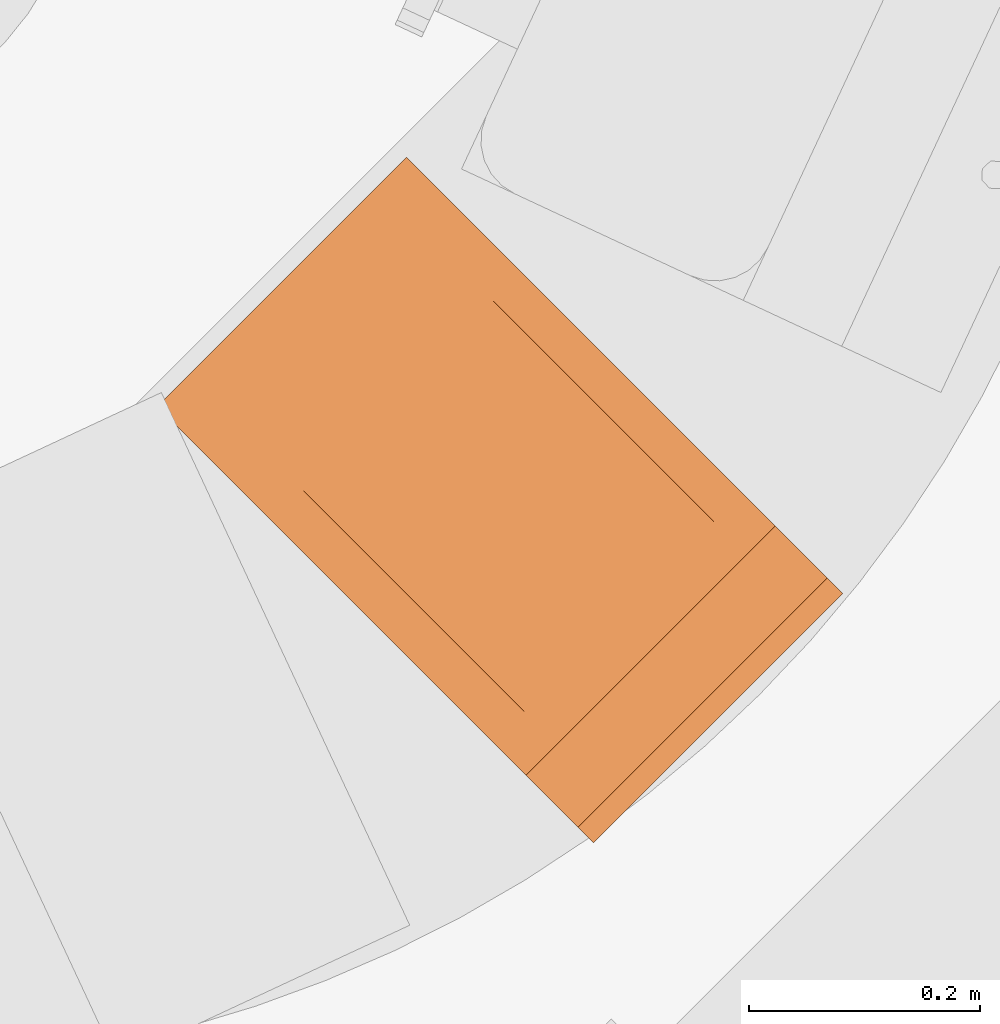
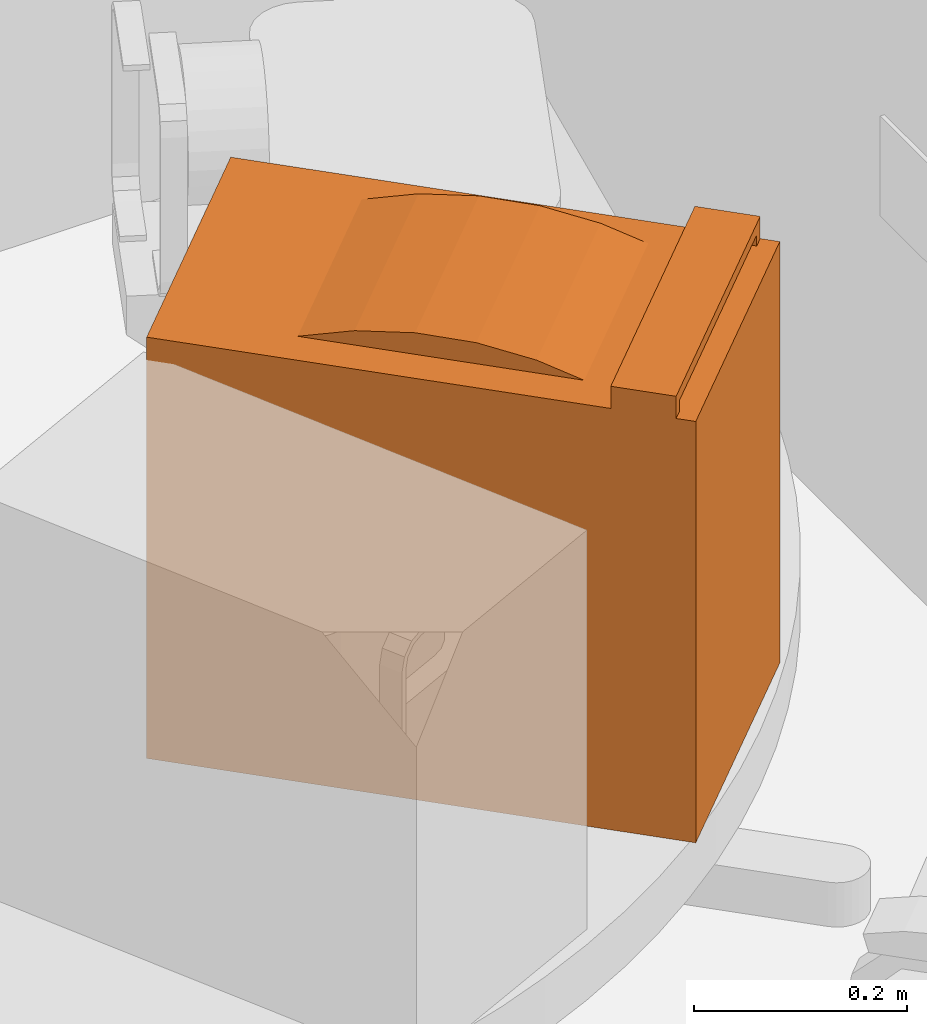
# One storey, part 12 of 12: 1 proxy.
"""IFC2X3 building model written with IfcOpenShell, lengths in feet."""

from ifc_helpers import new_model, entity, si_unit, converted_unit, derived_unit, direction, frame, origin, place, context, subcontext, project, spatial, faceted_brep, source, transform, mapped, material, type_object, type_shapes, element, save


model = new_model("IFC2X3")

# Units and contexts
model_context = context("Model", 3, precision=0.0001, world=origin(), true_north=direction((6.12303176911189e-17, 1.0)))
body_context = subcontext(model_context, "Body", "Model", "MODEL_VIEW")
ifc_project = project(units=[converted_unit("LENGTHUNIT", "FOOT", entity("IfcRatioMeasure", 0.3048), si_unit("LENGTHUNIT", "METRE"), dimensions=[1, 0, 0, 0, 0, 0, 0]), converted_unit("AREAUNIT", "SQUARE FOOT", entity("IfcRatioMeasure", 0.09290304), si_unit("AREAUNIT", "SQUARE_METRE"), dimensions=[2, 0, 0, 0, 0, 0, 0]), converted_unit("VOLUMEUNIT", "CUBIC FOOT", entity("IfcRatioMeasure", 0.028316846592), si_unit("VOLUMEUNIT", "CUBIC_METRE"), dimensions=[3, 0, 0, 0, 0, 0, 0]), converted_unit("PLANEANGLEUNIT", "DEGREE", entity("IfcRatioMeasure", 0.0174532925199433), si_unit("PLANEANGLEUNIT", "RADIAN"), dimensions=[0, 0, 0, 0, 0, 0, 0]), si_unit("MASSUNIT", "GRAM", prefix="KILO"), derived_unit("MASSDENSITYUNIT", [(si_unit("MASSUNIT", "GRAM", prefix="KILO"), 1), (si_unit("LENGTHUNIT", "METRE"), -3)]), si_unit("TIMEUNIT", "SECOND"), si_unit("FREQUENCYUNIT", "HERTZ"), si_unit("THERMODYNAMICTEMPERATUREUNIT", "DEGREE_CELSIUS"), derived_unit("THERMALTRANSMITTANCEUNIT", [(si_unit("MASSUNIT", "GRAM", prefix="KILO"), 1), (si_unit("THERMODYNAMICTEMPERATUREUNIT", "KELVIN"), -1), (si_unit("TIMEUNIT", "SECOND"), -3)]), derived_unit("VOLUMETRICFLOWRATEUNIT", [(si_unit("LENGTHUNIT", "METRE"), 3), (si_unit("TIMEUNIT", "SECOND"), -1)]), si_unit("ELECTRICCURRENTUNIT", "AMPERE"), si_unit("ELECTRICVOLTAGEUNIT", "VOLT"), si_unit("POWERUNIT", "WATT"), si_unit("FORCEUNIT", "NEWTON"), si_unit("ILLUMINANCEUNIT", "LUX"), si_unit("LUMINOUSFLUXUNIT", "LUMEN"), si_unit("LUMINOUSINTENSITYUNIT", "CANDELA"), derived_unit("USERDEFINED", [(si_unit("MASSUNIT", "GRAM", prefix="KILO"), -1), (si_unit("LENGTHUNIT", "METRE"), -2), (si_unit("TIMEUNIT", "SECOND"), 3), (si_unit("LUMINOUSFLUXUNIT", "LUMEN"), 1)]), derived_unit("LINEARVELOCITYUNIT", [(si_unit("LENGTHUNIT", "METRE"), 1), (si_unit("TIMEUNIT", "SECOND"), -1)]), si_unit("PRESSUREUNIT", "PASCAL"), derived_unit("USERDEFINED", [(si_unit("LENGTHUNIT", "METRE"), -2), (si_unit("MASSUNIT", "GRAM", prefix="KILO"), 1), (si_unit("TIMEUNIT", "SECOND"), -2)])], contexts=[model_context])

# Site, building, storey, space
site_placement = place(None, origin())
site = spatial("IfcSite", under=ifc_project, at=site_placement, Name="Default", CompositionType="ELEMENT")
building_placement = place(site_placement, origin())
building = spatial("IfcBuilding", under=site, at=building_placement, Name="EYE CLINIC:  OPTHALMOLOGY AND OPTOMETRY SERVICES (Ch. 233)", CompositionType="ELEMENT")
storey_placement = place(building_placement, origin())
storey = spatial("IfcBuildingStorey", under=building, at=storey_placement, Name="DATUM", CompositionType="ELEMENT", Elevation=0.0)
space_placement = place(storey_placement, origin())
space = spatial("IfcSpace", under=storey, at=space_placement, Name="(OPPT2)", CompositionType="ELEMENT", InteriorOrExteriorSpace="INTERNAL")

# Proxy
ifc_material = material(Name="EquipSpace")
building_element_proxy_type = type_object("IfcBuildingElementProxyType", Name="M5500 - Autorefractor, Ophthalmic", PredefinedType="NOTDEFINED", material=ifc_material)
shared_shape = source(origin(), body_context, "Body", "Brep", [
    faceted_brep([(0.500000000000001, 0.6875, 0.666666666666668), (0.500000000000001, 0.8125, 0.666666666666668), (0.500000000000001, 0.812500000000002, 1.66666666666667), (0.500000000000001, 0.604166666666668, 1.66666666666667), (0.500000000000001, 0.604166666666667, 0.666666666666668), (0.500000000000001, 0.541666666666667, 0.666666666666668), (0.500000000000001, 0.541666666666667, 0.500000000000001), (0.500000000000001, 0.6875, 0.500000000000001), (-0.499999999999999, 0.6875, 0.666666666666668), (-0.499999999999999, 0.6875, 0.500000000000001), (-0.499999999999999, 0.541666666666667, 0.500000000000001), (-0.499999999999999, 0.541666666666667, 0.666666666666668), (-0.499999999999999, 0.604166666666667, 0.666666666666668), (-0.499999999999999, 0.604166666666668, 1.66666666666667), (-0.499999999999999, 0.812500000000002, 1.66666666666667), (-0.499999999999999, 0.8125, 0.666666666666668), (-0.458333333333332, 0.812500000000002, 1.625), (-0.458333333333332, 0.8125, 0.708333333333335), (0.458333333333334, 0.8125, 0.708333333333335), (0.458333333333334, 0.812500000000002, 1.625), (-0.458333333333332, 0.604166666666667, 0.708333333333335), (-0.458333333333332, 0.604166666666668, 1.625), (0.458333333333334, 0.604166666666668, 1.625), (0.458333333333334, 0.604166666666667, 0.708333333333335)], [[[0, 1, 2, 3, 4, 5, 6, 7]], [[8, 9, 10, 11, 12, 13, 14, 15]], [[1, 0, 8, 15]], [[2, 1, 15, 14], [16, 17, 18, 19]], [[3, 2, 14, 13]], [[4, 3, 13, 12], [20, 21, 22, 23]], [[5, 4, 12, 11]], [[6, 5, 11, 10]], [[7, 6, 10, 9]], [[0, 7, 9, 8]], [[16, 21, 20, 17]], [[17, 20, 23, 18]], [[18, 23, 22, 19]], [[21, 16, 19, 22]]]),
    faceted_brep([(0.0312500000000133, -0.699703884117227, 0.526671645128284), (0.0156250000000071, -0.672640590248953, 0.526671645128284), (0.0156250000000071, -0.672640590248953, 0.568338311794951), (0.019531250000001, -0.679406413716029, 0.56833831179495), (0.023437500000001, -0.686172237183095, 0.56833831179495), (0.027343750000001, -0.692938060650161, 0.56833831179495), (0.0312500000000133, -0.699703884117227, 0.568338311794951), (-0.0156250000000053, -0.672640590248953, 0.526671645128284), (-0.0156250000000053, -0.672640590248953, 0.568338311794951), (-0.00781249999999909, -0.672640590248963, 0.56833831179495), (0.0, -0.672640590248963, 0.56833831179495), (0.00781250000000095, -0.672640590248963, 0.56833831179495), (-0.0312500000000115, -0.699703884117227, 0.526671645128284), (-0.0312500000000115, -0.699703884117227, 0.568338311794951), (-0.0273437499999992, -0.692938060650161, 0.56833831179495), (-0.0234374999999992, -0.686172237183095, 0.56833831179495), (-0.0195312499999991, -0.679406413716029, 0.56833831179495), (-0.0156250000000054, -0.726767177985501, 0.526671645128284), (-0.0156250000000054, -0.726767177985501, 0.568338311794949), (-0.0195312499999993, -0.720001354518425, 0.56833831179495), (-0.0234374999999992, -0.713235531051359, 0.56833831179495), (-0.0273437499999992, -0.706469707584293, 0.56833831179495), (0.0156250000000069, -0.726767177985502, 0.526671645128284), (0.0156250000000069, -0.726767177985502, 0.568338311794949), (0.00781250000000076, -0.726767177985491, 0.56833831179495), (0.0, -0.726767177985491, 0.56833831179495), (-0.00781249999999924, -0.726767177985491, 0.56833831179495), (0.0273437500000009, -0.706469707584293, 0.56833831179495), (0.0234375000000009, -0.713235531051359, 0.56833831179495), (0.0195312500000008, -0.720001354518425, 0.56833831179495), (0.047768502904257, -0.679917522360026, 0.636240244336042), (0.0490705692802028, -0.683060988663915, 0.636240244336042), (0.0518663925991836, -0.689810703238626, 0.636240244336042), (0.0436706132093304, -0.670024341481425, 0.636240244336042), (0.0395727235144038, -0.660131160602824, 0.636240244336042), (0.0197863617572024, -0.651935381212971, 0.636240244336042), (-0.0197863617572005, -0.651935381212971, 0.636240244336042), (0.0559642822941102, -0.699703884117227, 0.636240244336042), (0.0296795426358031, -0.656033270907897, 0.636240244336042), (-0.0518663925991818, -0.689810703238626, 0.636240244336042), (-0.0477685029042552, -0.679917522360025, 0.636240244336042), (-0.00989318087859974, -0.647837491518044, 0.636240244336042), (0.0, -0.643739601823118, 0.636240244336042), (-0.0395727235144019, -0.660131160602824, 0.636240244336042), (-0.0436706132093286, -0.670024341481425, 0.636240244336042), (0.0098931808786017, -0.647837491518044, 0.636240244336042), (-0.0296795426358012, -0.656033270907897, 0.636240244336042), (-0.0559642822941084, -0.699703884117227, 0.636240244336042), (-0.0525174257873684, -0.691382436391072, 0.636240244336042), (0.0443216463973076, -0.671596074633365, 0.636240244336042), (-0.0477685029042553, -0.719490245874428, 0.636240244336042), (-0.0518663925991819, -0.709597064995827, 0.636240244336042), (-0.0436706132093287, -0.729383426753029, 0.636240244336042), (-0.0395727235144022, -0.73927660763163, 0.636240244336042), (-0.0197863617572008, -0.747472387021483, 0.636240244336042), (0.0197863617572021, -0.747472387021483, 0.636240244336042), (-0.0296795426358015, -0.743374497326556, 0.636240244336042), (0.0518663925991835, -0.709597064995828, 0.636240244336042), (0.0477685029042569, -0.719490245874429, 0.636240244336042), (0.00989318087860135, -0.75157027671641, 0.636240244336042), (0.0, -0.755668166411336, 0.636240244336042), (0.0395727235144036, -0.73927660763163, 0.636240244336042), (0.0436706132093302, -0.729383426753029, 0.636240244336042), (-0.00989318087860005, -0.75157027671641, 0.636240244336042), (0.0296795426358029, -0.743374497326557, 0.636240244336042), (0.052517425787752, -0.70802533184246, 0.636240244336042), (0.0477685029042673, -0.679917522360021, 0.761240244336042), (0.0518663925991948, -0.689810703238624, 0.761240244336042), (0.0559642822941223, -0.699703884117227, 0.761240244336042), (0.0395727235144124, -0.660131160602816, 0.761240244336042), (0.0436706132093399, -0.670024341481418, 0.761240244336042), (0.0, -0.643739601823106, 0.761240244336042), (0.00989318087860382, -0.647837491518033, 0.761240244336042), (0.0197863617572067, -0.65193538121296, 0.761240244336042), (0.0296795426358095, -0.656033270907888, 0.761240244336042), (-0.0477685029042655, -0.679917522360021, 0.761240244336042), (-0.043670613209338, -0.670024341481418, 0.761240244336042), (-0.0395727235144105, -0.660131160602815, 0.761240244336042), (-0.0559642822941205, -0.699703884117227, 0.761240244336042), (-0.0521170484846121, -0.69041584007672, 0.761240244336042), (-0.051866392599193, -0.689810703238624, 0.761240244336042), (-0.00989318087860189, -0.647837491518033, 0.761240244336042), (-0.0296795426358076, -0.656033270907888, 0.761240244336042), (-0.0197863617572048, -0.65193538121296, 0.761240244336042), (-0.0395727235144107, -0.739276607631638, 0.761240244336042), (-0.0436706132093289, -0.729383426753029, 0.761240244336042), (-0.0443216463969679, -0.727811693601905, 0.761240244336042), (-0.0477685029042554, -0.719490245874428, 0.761240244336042), (-0.0490705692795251, -0.716346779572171, 0.761240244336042), (-0.051866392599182, -0.709597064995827, 0.761240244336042), (0.0, -0.755668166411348, 0.761240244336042), (-0.00989318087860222, -0.751570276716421, 0.761240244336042), (-0.0197863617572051, -0.747472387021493, 0.761240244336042), (-0.0296795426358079, -0.743374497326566, 0.761240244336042), (0.00989318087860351, -0.751570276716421, 0.761240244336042), (0.0395727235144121, -0.739276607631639, 0.761240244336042), (0.0296795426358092, -0.743374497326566, 0.761240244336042), (0.0197863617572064, -0.747472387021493, 0.761240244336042), (0.0477685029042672, -0.719490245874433, 0.761240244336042), (0.0436706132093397, -0.729383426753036, 0.761240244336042), (0.052117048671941, -0.708991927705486, 0.761240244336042), (0.0518663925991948, -0.70959706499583, 0.761240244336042), (0.0195312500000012, -0.679406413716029, 0.804046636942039), (0.0234375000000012, -0.686172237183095, 0.804046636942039), (0.0273437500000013, -0.692938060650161, 0.804046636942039), (0.00781250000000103, -0.672640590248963, 0.804046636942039), (0.0156250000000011, -0.672640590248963, 0.804046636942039), (-0.0156249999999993, -0.672640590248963, 0.804046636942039), (-0.00781249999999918, -0.672640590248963, 0.804046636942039), (-0.0273437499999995, -0.692938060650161, 0.804046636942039), (-0.0234374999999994, -0.686172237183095, 0.804046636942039), (0.0312500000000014, -0.699703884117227, 0.804046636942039), (0.0, -0.672640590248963, 0.804046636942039), (-0.0195312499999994, -0.679406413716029, 0.804046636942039), (-0.0312499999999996, -0.699703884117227, 0.804046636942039), (-0.0195312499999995, -0.720001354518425, 0.804046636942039), (-0.0234374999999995, -0.713235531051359, 0.804046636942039), (0.0273437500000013, -0.706469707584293, 0.804046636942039), (0.0234375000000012, -0.713235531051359, 0.804046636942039), (-0.0273437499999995, -0.706469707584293, 0.804046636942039), (-0.00781249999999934, -0.726767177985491, 0.804046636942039), (-0.0156249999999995, -0.726767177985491, 0.804046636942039), (0.015625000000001, -0.726767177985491, 0.804046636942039), (0.00781250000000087, -0.726767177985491, 0.804046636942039), (0.0195312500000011, -0.720001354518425, 0.804046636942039), (0.0, -0.726767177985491, 0.804046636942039), (0.0, -0.699703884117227, 0.804046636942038), (-0.0329857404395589, -0.666718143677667, 0.500000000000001), (0.0, -0.699703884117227, 0.500000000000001), (-0.0466488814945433, -0.699703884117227, 0.500000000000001), (0.0, -0.653055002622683, 0.500000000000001), (0.0329857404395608, -0.666718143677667, 0.500000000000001), (0.0466488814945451, -0.699703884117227, 0.500000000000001), (0.0329857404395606, -0.732689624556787, 0.500000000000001), (0.0, -0.746352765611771, 0.500000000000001), (-0.0329857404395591, -0.732689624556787, 0.500000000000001)], [[[0, 1, 2, 3, 4, 5, 6]], [[1, 7, 8, 9, 10, 11, 2]], [[7, 12, 13, 14, 15, 16, 8]], [[12, 17, 18, 19, 20, 21, 13]], [[17, 22, 23, 24, 25, 26, 18]], [[22, 0, 6, 27, 28, 29, 23]], [[5, 30, 31, 32]], [[33, 3, 34]], [[35, 2, 11]], [[8, 36, 9]], [[32, 37, 6]], [[34, 3, 38]], [[3, 2, 38]], [[14, 39, 40]], [[2, 35, 38]], [[10, 41, 42]], [[43, 16, 44]], [[11, 45, 35]], [[16, 46, 8]], [[13, 47, 48, 39]], [[41, 10, 9]], [[10, 45, 11]], [[3, 33, 4]], [[44, 16, 15]], [[42, 45, 10]], [[6, 5, 32]], [[5, 4, 30]], [[40, 15, 14]], [[13, 39, 14]], [[9, 36, 41]], [[15, 40, 44]], [[46, 16, 43]], [[46, 36, 8]], [[4, 33, 49, 30]], [[21, 50, 51]], [[52, 19, 53]], [[54, 18, 26]], [[23, 55, 24]], [[51, 47, 13]], [[53, 19, 56]], [[19, 18, 56]], [[27, 57, 58]], [[18, 54, 56]], [[25, 59, 60]], [[61, 29, 62]], [[26, 63, 54]], [[29, 64, 23]], [[6, 37, 65, 57]], [[59, 25, 24]], [[25, 63, 26]], [[19, 52, 20]], [[62, 29, 28]], [[60, 63, 25]], [[13, 21, 51]], [[21, 20, 50]], [[58, 28, 27]], [[6, 57, 27]], [[24, 55, 59]], [[28, 58, 62]], [[64, 29, 61]], [[64, 55, 23]], [[52, 50, 20]], [[66, 67, 68, 37, 32, 31, 30, 49, 33, 34, 69, 70]], [[69, 34, 38, 35, 45, 42, 71, 72, 73, 74]], [[75, 76, 77, 43, 44, 40, 39, 48, 47, 78, 79, 80]], [[81, 71, 42, 41, 36, 46, 43, 77, 82, 83]], [[50, 52, 53, 84, 85, 86, 87, 88, 89, 78, 47, 51]], [[63, 60, 90, 91, 92, 93, 84, 53, 56, 54]], [[94, 90, 60, 59, 55, 64, 61, 95, 96, 97]], [[98, 99, 95, 61, 62, 58, 57, 65, 37, 68, 100, 101]], [[69, 102, 70]], [[74, 102, 69]], [[103, 70, 102]], [[66, 103, 104]], [[73, 105, 106]], [[83, 107, 108]], [[75, 109, 110]], [[111, 67, 104]], [[81, 112, 71]], [[82, 77, 113]], [[79, 114, 109]], [[112, 81, 108]], [[72, 112, 105]], [[104, 67, 66]], [[103, 66, 70]], [[113, 76, 110]], [[102, 74, 106]], [[74, 73, 106]], [[68, 67, 111]], [[105, 73, 72]], [[72, 71, 112]], [[109, 75, 80, 79]], [[79, 78, 114]], [[107, 83, 82]], [[82, 113, 107]], [[76, 113, 77]], [[76, 75, 110]], [[81, 83, 108]], [[84, 115, 85]], [[116, 87, 86, 85]], [[98, 117, 118]], [[87, 116, 119]], [[92, 120, 121]], [[97, 122, 123]], [[117, 98, 101, 100]], [[96, 95, 124]], [[122, 96, 124]], [[115, 93, 121]], [[100, 111, 117]], [[116, 85, 115]], [[91, 125, 120]], [[125, 94, 123]], [[119, 89, 88, 87]], [[100, 68, 111]], [[114, 89, 119]], [[78, 89, 114]], [[120, 92, 91]], [[91, 90, 125]], [[122, 97, 96]], [[124, 99, 118]], [[99, 98, 118]], [[93, 92, 121]], [[99, 124, 95]], [[93, 115, 84]], [[94, 125, 90]], [[94, 97, 123]], [[126, 107, 113]], [[126, 113, 110]], [[126, 110, 109]], [[126, 109, 114]], [[126, 114, 119]], [[126, 108, 107]], [[126, 112, 108]], [[126, 105, 112]], [[126, 106, 105]], [[126, 102, 106]], [[126, 103, 102]], [[126, 104, 103]], [[126, 111, 104]], [[126, 119, 116]], [[126, 116, 115]], [[126, 115, 121]], [[126, 121, 120]], [[126, 117, 111]], [[126, 118, 117]], [[126, 124, 118]], [[126, 122, 124]], [[126, 120, 125]], [[126, 125, 123]], [[126, 123, 122]], [[127, 128, 129]], [[130, 128, 127]], [[130, 131, 128]], [[132, 128, 131]], [[132, 133, 128]], [[134, 128, 133]], [[134, 135, 128]], [[135, 129, 128]], [[132, 131, 0]], [[1, 0, 131]], [[131, 130, 1]], [[130, 127, 7]], [[127, 12, 7]], [[12, 127, 129]], [[130, 7, 1]], [[129, 135, 12]], [[17, 12, 135]], [[135, 134, 17]], [[134, 133, 22]], [[133, 0, 22]], [[0, 133, 132]], [[134, 22, 17]]]),
    faceted_brep([(0.375218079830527, 0.12770488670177, 0.932820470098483), (0.375218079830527, 0.138111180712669, 0.957943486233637), (0.375218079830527, 0.154665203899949, 0.979517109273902), (0.375218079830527, 0.176238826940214, 0.996071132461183), (0.375218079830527, 0.201361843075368, 1.00647742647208), (0.375218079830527, 0.228322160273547, 1.01002681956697), (0.375218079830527, 0.269988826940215, 1.01002681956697), (0.375218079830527, 0.269988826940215, 1.07252681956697), (0.375218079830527, 0.519988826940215, 1.07252681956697), (0.375218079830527, 0.519988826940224, 1.57252681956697), (0.375218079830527, 0.334328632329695, 1.6315995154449), (0.375218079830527, 0.141950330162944, 1.66241964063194), (0.375218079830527, -0.0528720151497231, 1.66430246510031), (0.375218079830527, -0.245810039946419, 1.63720615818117), (0.375218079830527, -0.432577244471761, 1.58173271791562), (0.375218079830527, -0.604209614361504, 1.13461510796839), (0.375218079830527, -0.546354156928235, 1.08967161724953), (0.375218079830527, -0.492233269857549, 1.03674502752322), (0.375218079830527, -0.451449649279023, 0.972972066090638), (0.375218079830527, -0.426106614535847, 0.901641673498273), (0.375218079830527, -0.417511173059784, 0.826432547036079), (0.375218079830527, -0.417511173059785, 0.500000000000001), (0.375218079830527, 0.0702539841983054, 0.5), (0.375218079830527, 0.124155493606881, 0.593360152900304), (0.375218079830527, 0.124155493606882, 0.905860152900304), (-0.385442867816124, 0.269988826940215, 1.07252681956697), (-0.385442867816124, 0.269988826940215, 1.01002681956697), (-0.385442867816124, 0.228322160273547, 1.01002681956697), (-0.385442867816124, 0.201361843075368, 1.00647742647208), (-0.385442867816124, 0.176238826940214, 0.996071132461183), (-0.385442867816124, 0.154665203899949, 0.979517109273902), (-0.385442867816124, 0.138111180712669, 0.957943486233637), (-0.385442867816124, 0.12770488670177, 0.932820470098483), (-0.385442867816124, 0.124155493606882, 0.905860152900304), (-0.385442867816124, 0.124155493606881, 0.593360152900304), (-0.385442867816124, 0.0702539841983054, 0.5), (-0.385442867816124, -0.417511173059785, 0.500000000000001), (-0.385442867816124, -0.417511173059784, 0.826432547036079), (-0.385442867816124, -0.426106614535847, 0.901641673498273), (-0.385442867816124, -0.451449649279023, 0.972972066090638), (-0.385442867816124, -0.492233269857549, 1.03674502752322), (-0.385442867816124, -0.546354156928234, 1.08967161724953), (-0.385442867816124, -0.604209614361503, 1.13461510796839), (-0.385442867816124, -0.432577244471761, 1.58173271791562), (-0.385442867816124, -0.245810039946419, 1.63720615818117), (-0.385442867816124, -0.0528720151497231, 1.66430246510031), (-0.385442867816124, 0.141950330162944, 1.66241964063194), (-0.385442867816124, 0.334328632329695, 1.6315995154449), (-0.385442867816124, 0.519988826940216, 1.57252681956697), (-0.385442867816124, 0.519988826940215, 1.07252681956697)], [[[0, 1, 2, 3, 4, 5, 6, 7, 8, 9, 10, 11, 12, 13, 14, 15, 16, 17, 18, 19, 20, 21, 22, 23, 24]], [[25, 26, 27, 28, 29, 30, 31, 32, 33, 34, 35, 36, 37, 38, 39, 40, 41, 42, 43, 44, 45, 46, 47, 48, 49]], [[10, 9, 48, 47]], [[11, 10, 47, 46]], [[46, 45, 12, 11]], [[13, 12, 45, 44]], [[14, 13, 44, 43]], [[15, 14, 43, 42]], [[16, 15, 42, 41]], [[40, 17, 16, 41]], [[39, 18, 17, 40]], [[37, 20, 19, 38]], [[18, 39, 38, 19]], [[21, 20, 37, 36]], [[22, 21, 36, 35]], [[23, 22, 35, 34]], [[24, 23, 34, 33]], [[0, 24, 33, 32]], [[1, 0, 32, 31]], [[31, 30, 2, 1]], [[4, 3, 29, 28]], [[5, 4, 28, 27]], [[30, 29, 3, 2]], [[6, 5, 27, 26]], [[7, 6, 26, 25]], [[8, 7, 25, 49]], [[9, 8, 49, 48]]]),
    faceted_brep([(0.437500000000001, 0.8125, 0.500000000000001), (-0.437499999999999, 0.8125, 0.500000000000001), (-0.437499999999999, -0.8125, 0.500000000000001), (0.437500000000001, -0.8125, 0.500000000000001), (0.458333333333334, 0.833333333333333, 0.256918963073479), (0.458333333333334, -0.833333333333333, 0.256918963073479), (-0.458333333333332, -0.833333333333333, 0.256918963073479), (-0.458333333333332, 0.833333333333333, 0.256918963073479)], [[[0, 1, 2, 3]], [[4, 5, 6, 7]], [[4, 7, 1, 0]], [[7, 6, 2, 1]], [[6, 5, 3, 2]], [[5, 4, 0, 3]]]),
    faceted_brep([(0.458333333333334, 0.833333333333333, 0.256918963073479), (-0.458333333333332, 0.833333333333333, 0.256918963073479), (-0.458333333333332, -0.833333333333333, 0.256918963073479), (0.458333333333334, -0.833333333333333, 0.256918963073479), (0.500000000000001, 0.875, 0.0), (0.500000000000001, -0.875, 0.0), (-0.499999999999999, -0.875, 0.0), (-0.499999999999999, 0.875, 0.0)], [[[0, 1, 2, 3]], [[4, 5, 6, 7]], [[4, 7, 1, 0]], [[7, 6, 2, 1]], [[6, 5, 3, 2]], [[5, 4, 0, 3]]]),
    faceted_brep([(-0.499999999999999, 0.875, 1.5833333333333), (-0.499999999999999, 0.0, 1.5833333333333), (-0.499999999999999, -0.875, 1.5833333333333), (0.500000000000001, -0.875, 1.5833333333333), (0.500000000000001, 0.875, 1.5833333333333), (-0.499999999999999, 0.875, 0.0), (0.500000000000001, 0.875, 0.0), (0.500000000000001, -0.875, 0.0), (-0.499999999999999, -0.875, 0.0), (-0.499999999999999, 0.0, 0.0)], [[[0, 1, 2, 3, 4]], [[5, 6, 7, 8, 9]], [[1, 0, 5, 9]], [[2, 1, 9, 8]], [[3, 2, 8, 7]], [[4, 3, 7, 6]], [[0, 4, 6, 5]]]),
])
type_shapes(building_element_proxy_type, [shared_shape])
proxy_placement = place(space_placement, frame((160.575223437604, 29.2806460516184, 2.16666666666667), z_axis=(0.0, 0.0, 1.0), x_axis=(-0.707106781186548, -0.707106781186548, 0.0)))
element("IfcBuildingElementProxy", 1, at=proxy_placement, inside=space, type_object=building_element_proxy_type, material=ifc_material, Name="M5500 - Autorefractor, Ophthalmic:M5500 - Autorefractor, Ophthalmic", ObjectType="M5500 - Autorefractor, Ophthalmic", context=body_context, shape_type="MappedRepresentation", body=[
    mapped(shared_shape, transform((0.0, 0.0, 0.0), scale=1.0)),
])

save(model, "model.ifc")
